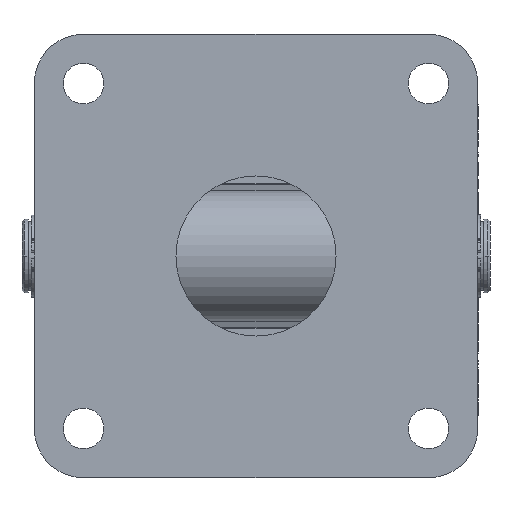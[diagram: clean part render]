
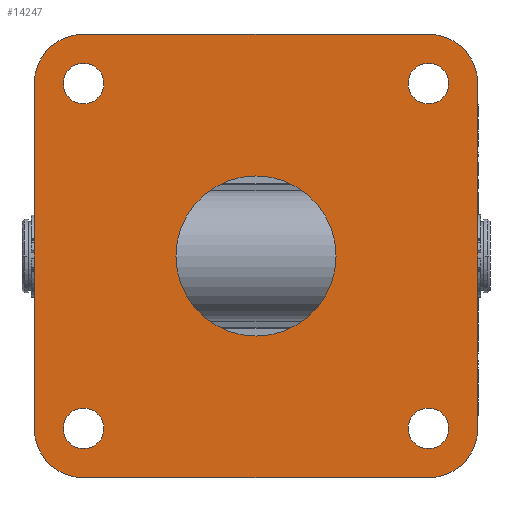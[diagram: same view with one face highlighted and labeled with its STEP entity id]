
A CAD part, left-side view. The second image highlights one B-rep face of the part: STEP entity #14247.
In plain terms, the highlighted planar face has unit normal (-1, 0, 0).
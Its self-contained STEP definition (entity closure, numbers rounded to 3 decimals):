
#14020=CARTESIAN_POINT('Vertex',(-23.,90.,-70.)) ;
#14023=CARTESIAN_POINT('Line Origine',(-23.,90.,0.)) ;
#14027=CARTESIAN_POINT('Vertex',(-23.,90.,70.)) ;
#14095=CARTESIAN_POINT('Axis2P3D Location',(-23.,0.,0.)) ;
#14100=CARTESIAN_POINT('Line Origine',(-23.,0.,90.)) ;
#14104=CARTESIAN_POINT('Vertex',(-23.,70.,90.)) ;
#14106=CARTESIAN_POINT('Vertex',(-23.,-70.,90.)) ;
#14109=CARTESIAN_POINT('Axis2P3D Location',(-23.,70.,70.)) ;
#14114=CARTESIAN_POINT('Axis2P3D Location',(-23.,70.,-70.)) ;
#14118=CARTESIAN_POINT('Vertex',(-23.,70.,-90.)) ;
#14121=CARTESIAN_POINT('Line Origine',(-23.,0.,-90.)) ;
#14125=CARTESIAN_POINT('Vertex',(-23.,-70.,-90.)) ;
#14128=CARTESIAN_POINT('Axis2P3D Location',(-23.,-70.,-70.)) ;
#14132=CARTESIAN_POINT('Vertex',(-23.,-90.,-70.)) ;
#14135=CARTESIAN_POINT('Line Origine',(-23.,-90.,0.)) ;
#14139=CARTESIAN_POINT('Vertex',(-23.,-90.,70.)) ;
#14142=CARTESIAN_POINT('Axis2P3D Location',(-23.,-70.,70.)) ;
#14157=CARTESIAN_POINT('Axis2P3D Location',(-23.,0.,0.)) ;
#14161=CARTESIAN_POINT('Vertex',(-23.,32.5,0.)) ;
#14163=CARTESIAN_POINT('Vertex',(-23.,-32.5,0.)) ;
#14166=CARTESIAN_POINT('Axis2P3D Location',(-23.,0.,0.)) ;
#14175=CARTESIAN_POINT('Axis2P3D Location',(-23.,-70.,70.)) ;
#14179=CARTESIAN_POINT('Vertex',(-23.,-61.75,70.)) ;
#14181=CARTESIAN_POINT('Vertex',(-23.,-78.25,70.)) ;
#14184=CARTESIAN_POINT('Axis2P3D Location',(-23.,-70.,70.)) ;
#14193=CARTESIAN_POINT('Axis2P3D Location',(-23.,-70.,-70.)) ;
#14197=CARTESIAN_POINT('Vertex',(-23.,-61.75,-70.)) ;
#14199=CARTESIAN_POINT('Vertex',(-23.,-78.25,-70.)) ;
#14202=CARTESIAN_POINT('Axis2P3D Location',(-23.,-70.,-70.)) ;
#14211=CARTESIAN_POINT('Axis2P3D Location',(-23.,70.,-70.)) ;
#14215=CARTESIAN_POINT('Vertex',(-23.,61.75,-70.)) ;
#14217=CARTESIAN_POINT('Vertex',(-23.,78.25,-70.)) ;
#14220=CARTESIAN_POINT('Axis2P3D Location',(-23.,70.,-70.)) ;
#14229=CARTESIAN_POINT('Axis2P3D Location',(-23.,70.,70.)) ;
#14233=CARTESIAN_POINT('Vertex',(-23.,61.75,70.)) ;
#14235=CARTESIAN_POINT('Vertex',(-23.,78.25,70.)) ;
#14238=CARTESIAN_POINT('Axis2P3D Location',(-23.,70.,70.)) ;
#14024=DIRECTION('Vector Direction',(0.,0.,1.)) ;
#14096=DIRECTION('Axis2P3D Direction',(1.,0.,0.)) ;
#14097=DIRECTION('Axis2P3D XDirection',(0.,1.,0.)) ;
#14101=DIRECTION('Vector Direction',(0.,1.,0.)) ;
#14110=DIRECTION('Axis2P3D Direction',(1.,0.,0.)) ;
#14115=DIRECTION('Axis2P3D Direction',(1.,0.,0.)) ;
#14122=DIRECTION('Vector Direction',(0.,-1.,0.)) ;
#14129=DIRECTION('Axis2P3D Direction',(1.,0.,0.)) ;
#14136=DIRECTION('Vector Direction',(0.,0.,-1.)) ;
#14143=DIRECTION('Axis2P3D Direction',(1.,0.,0.)) ;
#14158=DIRECTION('Axis2P3D Direction',(1.,0.,0.)) ;
#14167=DIRECTION('Axis2P3D Direction',(1.,0.,0.)) ;
#14176=DIRECTION('Axis2P3D Direction',(1.,0.,0.)) ;
#14185=DIRECTION('Axis2P3D Direction',(1.,0.,0.)) ;
#14194=DIRECTION('Axis2P3D Direction',(1.,0.,0.)) ;
#14203=DIRECTION('Axis2P3D Direction',(1.,0.,0.)) ;
#14212=DIRECTION('Axis2P3D Direction',(1.,0.,0.)) ;
#14221=DIRECTION('Axis2P3D Direction',(1.,0.,0.)) ;
#14230=DIRECTION('Axis2P3D Direction',(1.,0.,0.)) ;
#14239=DIRECTION('Axis2P3D Direction',(1.,0.,0.)) ;
#14098=AXIS2_PLACEMENT_3D('Plane Axis2P3D',#14095,#14096,#14097) ;
#14111=AXIS2_PLACEMENT_3D('Circle Axis2P3D',#14109,#14110,$) ;
#14116=AXIS2_PLACEMENT_3D('Circle Axis2P3D',#14114,#14115,$) ;
#14130=AXIS2_PLACEMENT_3D('Circle Axis2P3D',#14128,#14129,$) ;
#14144=AXIS2_PLACEMENT_3D('Circle Axis2P3D',#14142,#14143,$) ;
#14159=AXIS2_PLACEMENT_3D('Circle Axis2P3D',#14157,#14158,$) ;
#14168=AXIS2_PLACEMENT_3D('Circle Axis2P3D',#14166,#14167,$) ;
#14177=AXIS2_PLACEMENT_3D('Circle Axis2P3D',#14175,#14176,$) ;
#14186=AXIS2_PLACEMENT_3D('Circle Axis2P3D',#14184,#14185,$) ;
#14195=AXIS2_PLACEMENT_3D('Circle Axis2P3D',#14193,#14194,$) ;
#14204=AXIS2_PLACEMENT_3D('Circle Axis2P3D',#14202,#14203,$) ;
#14213=AXIS2_PLACEMENT_3D('Circle Axis2P3D',#14211,#14212,$) ;
#14222=AXIS2_PLACEMENT_3D('Circle Axis2P3D',#14220,#14221,$) ;
#14231=AXIS2_PLACEMENT_3D('Circle Axis2P3D',#14229,#14230,$) ;
#14240=AXIS2_PLACEMENT_3D('Circle Axis2P3D',#14238,#14239,$) ;
#14148=ORIENTED_EDGE('',*,*,#14108,.F.) ;
#14149=ORIENTED_EDGE('',*,*,#14113,.F.) ;
#14150=ORIENTED_EDGE('',*,*,#14029,.F.) ;
#14151=ORIENTED_EDGE('',*,*,#14120,.F.) ;
#14152=ORIENTED_EDGE('',*,*,#14127,.F.) ;
#14153=ORIENTED_EDGE('',*,*,#14134,.F.) ;
#14154=ORIENTED_EDGE('',*,*,#14141,.F.) ;
#14155=ORIENTED_EDGE('',*,*,#14146,.F.) ;
#14172=ORIENTED_EDGE('',*,*,#14165,.F.) ;
#14173=ORIENTED_EDGE('',*,*,#14170,.F.) ;
#14190=ORIENTED_EDGE('',*,*,#14183,.T.) ;
#14191=ORIENTED_EDGE('',*,*,#14188,.T.) ;
#14208=ORIENTED_EDGE('',*,*,#14201,.T.) ;
#14209=ORIENTED_EDGE('',*,*,#14206,.T.) ;
#14226=ORIENTED_EDGE('',*,*,#14219,.T.) ;
#14227=ORIENTED_EDGE('',*,*,#14224,.T.) ;
#14244=ORIENTED_EDGE('',*,*,#14237,.T.) ;
#14245=ORIENTED_EDGE('',*,*,#14242,.T.) ;
#14174=FACE_BOUND('',#14171,.T.) ;
#14192=FACE_BOUND('',#14189,.T.) ;
#14210=FACE_BOUND('',#14207,.T.) ;
#14228=FACE_BOUND('',#14225,.T.) ;
#14246=FACE_BOUND('',#14243,.T.) ;
#14025=VECTOR('Line Direction',#14024,1.) ;
#14102=VECTOR('Line Direction',#14101,1.) ;
#14123=VECTOR('Line Direction',#14122,1.) ;
#14137=VECTOR('Line Direction',#14136,1.) ;
#14247=ADVANCED_FACE('PartBody',(#14156,#14174,#14192,#14210,#14228,#14246),#14099,.F.) ;
#14112=CIRCLE('generated circle',#14111,20.) ;
#14117=CIRCLE('generated circle',#14116,20.) ;
#14131=CIRCLE('generated circle',#14130,20.) ;
#14145=CIRCLE('generated circle',#14144,20.) ;
#14160=CIRCLE('generated circle',#14159,32.5) ;
#14169=CIRCLE('generated circle',#14168,32.5) ;
#14178=CIRCLE('generated circle',#14177,8.25) ;
#14187=CIRCLE('generated circle',#14186,8.25) ;
#14196=CIRCLE('generated circle',#14195,8.25) ;
#14205=CIRCLE('generated circle',#14204,8.25) ;
#14214=CIRCLE('generated circle',#14213,8.25) ;
#14223=CIRCLE('generated circle',#14222,8.25) ;
#14232=CIRCLE('generated circle',#14231,8.25) ;
#14241=CIRCLE('generated circle',#14240,8.25) ;
#14029=EDGE_CURVE('',#14021,#14028,#14026,.T.) ;
#14108=EDGE_CURVE('',#14105,#14107,#14103,.F.) ;
#14113=EDGE_CURVE('',#14028,#14105,#14112,.T.) ;
#14120=EDGE_CURVE('',#14119,#14021,#14117,.T.) ;
#14127=EDGE_CURVE('',#14126,#14119,#14124,.F.) ;
#14134=EDGE_CURVE('',#14133,#14126,#14131,.T.) ;
#14141=EDGE_CURVE('',#14140,#14133,#14138,.T.) ;
#14146=EDGE_CURVE('',#14107,#14140,#14145,.T.) ;
#14165=EDGE_CURVE('',#14162,#14164,#14160,.F.) ;
#14170=EDGE_CURVE('',#14164,#14162,#14169,.F.) ;
#14183=EDGE_CURVE('',#14180,#14182,#14178,.T.) ;
#14188=EDGE_CURVE('',#14182,#14180,#14187,.T.) ;
#14201=EDGE_CURVE('',#14198,#14200,#14196,.T.) ;
#14206=EDGE_CURVE('',#14200,#14198,#14205,.T.) ;
#14219=EDGE_CURVE('',#14216,#14218,#14214,.T.) ;
#14224=EDGE_CURVE('',#14218,#14216,#14223,.T.) ;
#14237=EDGE_CURVE('',#14234,#14236,#14232,.T.) ;
#14242=EDGE_CURVE('',#14236,#14234,#14241,.T.) ;
#14147=EDGE_LOOP('',(#14148,#14149,#14150,#14151,#14152,#14153,#14154,#14155)) ;
#14171=EDGE_LOOP('',(#14172,#14173)) ;
#14189=EDGE_LOOP('',(#14190,#14191)) ;
#14207=EDGE_LOOP('',(#14208,#14209)) ;
#14225=EDGE_LOOP('',(#14226,#14227)) ;
#14243=EDGE_LOOP('',(#14244,#14245)) ;
#14156=FACE_OUTER_BOUND('',#14147,.T.) ;
#14026=LINE('Line',#14023,#14025) ;
#14103=LINE('Line',#14100,#14102) ;
#14124=LINE('Line',#14121,#14123) ;
#14138=LINE('Line',#14135,#14137) ;
#14099=PLANE('',#14098) ;
#14021=VERTEX_POINT('',#14020) ;
#14028=VERTEX_POINT('',#14027) ;
#14105=VERTEX_POINT('',#14104) ;
#14107=VERTEX_POINT('',#14106) ;
#14119=VERTEX_POINT('',#14118) ;
#14126=VERTEX_POINT('',#14125) ;
#14133=VERTEX_POINT('',#14132) ;
#14140=VERTEX_POINT('',#14139) ;
#14162=VERTEX_POINT('',#14161) ;
#14164=VERTEX_POINT('',#14163) ;
#14180=VERTEX_POINT('',#14179) ;
#14182=VERTEX_POINT('',#14181) ;
#14198=VERTEX_POINT('',#14197) ;
#14200=VERTEX_POINT('',#14199) ;
#14216=VERTEX_POINT('',#14215) ;
#14218=VERTEX_POINT('',#14217) ;
#14234=VERTEX_POINT('',#14233) ;
#14236=VERTEX_POINT('',#14235) ;
